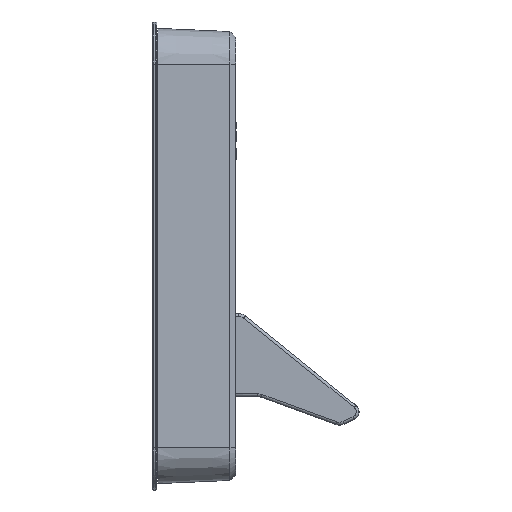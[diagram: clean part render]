
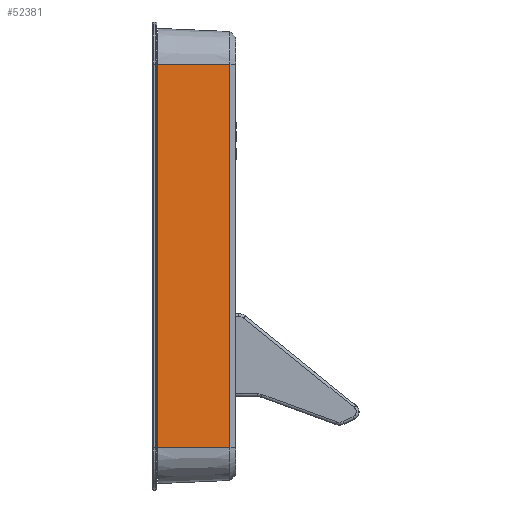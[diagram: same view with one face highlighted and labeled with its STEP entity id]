
A CAD part, left-side view. The second image highlights one B-rep face of the part: STEP entity #52381.
In plain terms, the highlighted planar face has unit normal (-0.999, -0.044, 0) as drawn and (0.999, 0.044, 0) by its records, which use the part's own axes.
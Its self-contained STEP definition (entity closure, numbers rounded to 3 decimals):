
#4079=PLANE('',#55867);
#6203=FACE_OUTER_BOUND('',#9259,.T.);
#9259=EDGE_LOOP('',(#40689,#40690,#40691,#40692));
#13292=LINE('',#79886,#18487);
#13293=LINE('',#79891,#18488);
#13294=LINE('',#79895,#18489);
#13295=LINE('',#79896,#18490);
#18487=VECTOR('',#62531,69.2);
#18488=VECTOR('',#62538,13.013);
#18489=VECTOR('',#62543,13.013);
#18490=VECTOR('',#62544,69.2);
#24333=VERTEX_POINT('',#79880);
#24334=VERTEX_POINT('',#79884);
#24335=VERTEX_POINT('',#79890);
#24336=VERTEX_POINT('',#79894);
#30352=EDGE_CURVE('',#24333,#24334,#13292,.T.);
#30354=EDGE_CURVE('',#24335,#24334,#13293,.T.);
#30356=EDGE_CURVE('',#24336,#24333,#13294,.T.);
#30357=EDGE_CURVE('',#24335,#24336,#13295,.T.);
#40689=ORIENTED_EDGE('',*,*,#30352,.F.);
#40690=ORIENTED_EDGE('',*,*,#30356,.F.);
#40691=ORIENTED_EDGE('',*,*,#30357,.F.);
#40692=ORIENTED_EDGE('',*,*,#30354,.T.);
#52381=ADVANCED_FACE('',(#6203),#4079,.T.);
#55867=AXIS2_PLACEMENT_3D('',#79893,#62541,#62542);
#62531=DIRECTION('',(0.,0.,-1.));
#62538=DIRECTION('',(-0.044,0.999,0.));
#62541=DIRECTION('center_axis',(0.999,0.044,0.));
#62542=DIRECTION('ref_axis',(0.,0.,
-1.));
#62543=DIRECTION('',(-0.044,0.999,0.));
#62544=DIRECTION('',(0.,0.,1.));
#79880=CARTESIAN_POINT('',(75.111,13.001,75.6));
#79884=CARTESIAN_POINT('',(75.111,13.001,6.4));
#79886=CARTESIAN_POINT('',(75.111,13.001,75.6));
#79890=CARTESIAN_POINT('',(75.679,0.,6.4));
#79891=CARTESIAN_POINT('',(75.679,0.,6.4));
#79893=CARTESIAN_POINT('Origin',(75.679,0.,75.6));
#79894=CARTESIAN_POINT('',(75.679,0.,75.6));
#79895=CARTESIAN_POINT('',(75.679,0.,75.6));
#79896=CARTESIAN_POINT('',(75.679,0.,6.4));
